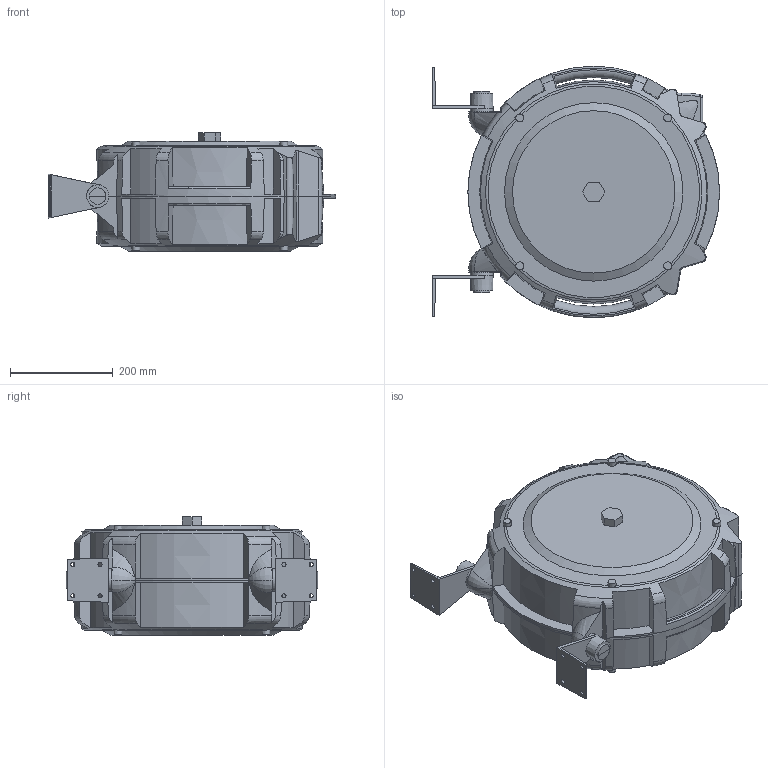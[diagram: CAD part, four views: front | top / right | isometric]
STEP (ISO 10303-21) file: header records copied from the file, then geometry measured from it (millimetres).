
FILE_DESCRIPTION (( 'STEP AP203' ), '1' );
FILE_NAME ('gen 3 - defeatured 2 - 16mm swivel.STEP', '2012-06-29T04:33:49', ( 'bpd' ), ( '' ), 'SwSTEP 2.0', 'SolidWorks 2012', '' );
FILE_SCHEMA (( 'CONFIG_CONTROL_DESIGN' ));
Length unit declared in the file: millimetre
Products named in the file (1): gen 3 - defeatured 2 - 16mm swivel
Bounding box: 559 x 489.92 x 230 mm (x, y, z)
Volume: 34202520.6 mm3; surface area: 1231206.1 mm2
Topology: 6 solids, 6 shells, 288 faces, 833 edges, 556 vertices
Faces by surface type: plane 154, cone 56, torus 36, cylinder 24, bspline 18
Full cylindrical faces by diameter (mm): 8 x8
Entity records: 15181 total; most frequent: CARTESIAN_POINT 8306, ORIENTED_EDGE 1570, DIRECTION 1193, EDGE_CURVE 785, VERTEX_POINT 532, AXIS2_PLACEMENT_3D 469, EDGE_LOOP 335, FACE_OUTER_BOUND 296
